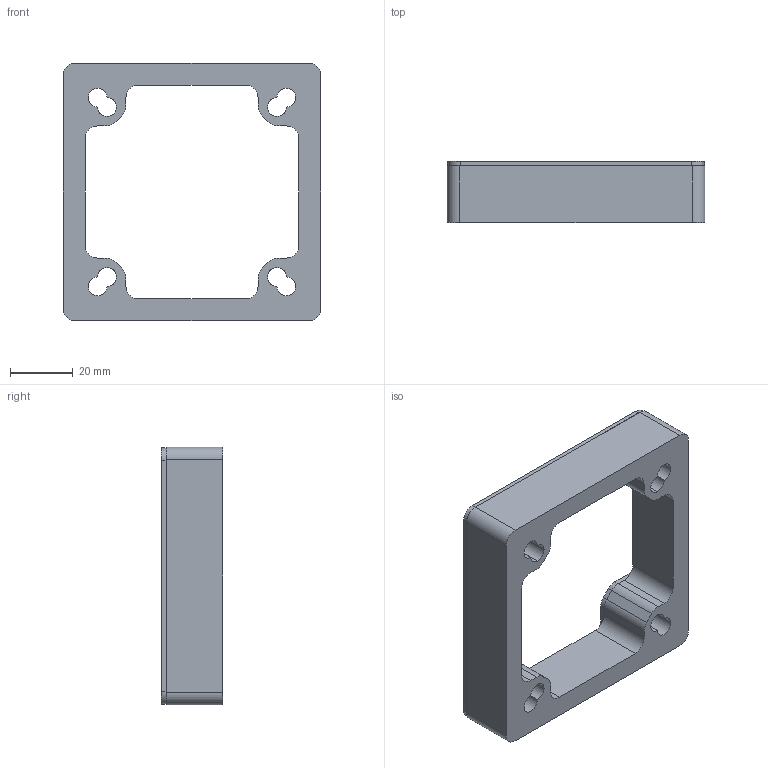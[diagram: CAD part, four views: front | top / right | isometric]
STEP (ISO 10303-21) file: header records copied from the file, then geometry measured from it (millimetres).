
FILE_DESCRIPTION((''),'2;1');
FILE_NAME('KIT_ADAPTER_63_90S_ASM','2013-05-15T',('tecnicocad'),(''),'PRO/ENGINEER BY PARAMETRIC TECHNOLOGY CORPORATION, 2011490','PRO/ENGINEER BY PARAMETRIC TECHNOLOGY CORPORATION, 2011490','');
FILE_SCHEMA(('CONFIG_CONTROL_DESIGN'));
Length unit declared in the file: millimetre
Products named in the file (3): SPACER_NEO_71_80_90S_FRAME; GASKET-NEO-71-80-90S; KIT_ADAPTER_63_90S_ASM
Assembly tree (2 placements, depth 2):
  KIT_ADAPTER_63_90S_ASM
    SPACER_NEO_71_80_90S_FRAME
    GASKET-NEO-71-80-90S
Bounding box: 82 x 19.5 x 82 mm (x, y, z)
Volume: 48568.1 mm3; surface area: 22219.3 mm2
Topology: 2 solids, 2 shells, 116 faces, 344 edges, 232 vertices
Faces by surface type: cylinder 64, plane 52
Entity records: 4076 total; most frequent: DIRECTION 722, CARTESIAN_POINT 697, ORIENTED_EDGE 688, EDGE_CURVE 344, AXIS2_PLACEMENT_3D 257, VERTEX_POINT 232, VECTOR 208, LINE 208
